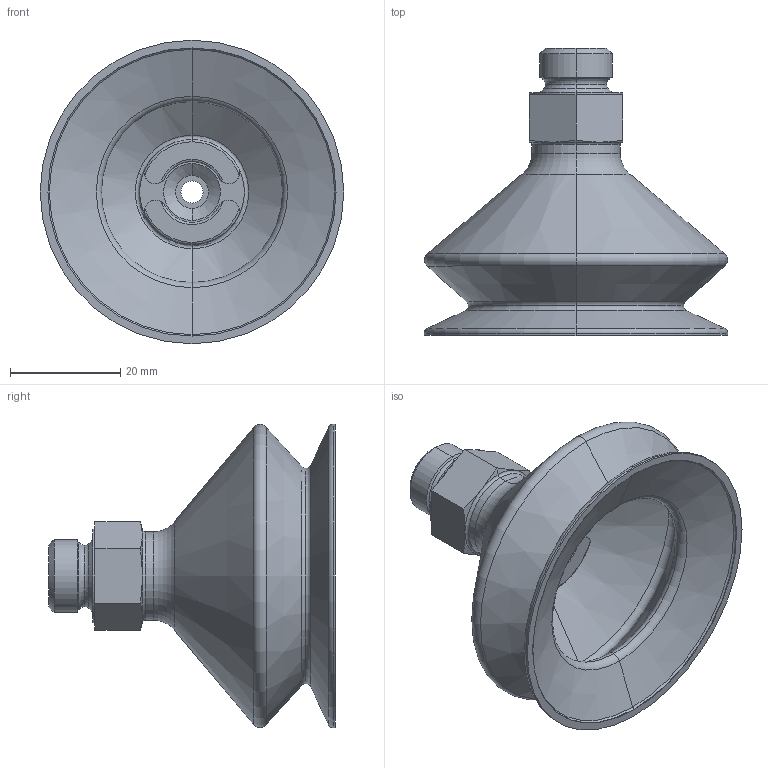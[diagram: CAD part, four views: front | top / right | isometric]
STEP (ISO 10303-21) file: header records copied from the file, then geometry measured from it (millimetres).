
FILE_DESCRIPTION (( 'STEP AP203' ), '1' );
FILE_NAME ('ZASB-55-1_4-SI.STEP', '2022-03-14T18:00:53', ( '' ), ( '' ), 'SwSTEP 2.0', 'SolidWorks 2019', '' );
FILE_SCHEMA (( 'CONFIG_CONTROL_DESIGN' ));
Length unit declared in the file: millimetre
Products named in the file (1): ZASB-55-1_4-SI
Bounding box: 55 x 52 x 55 mm (x, y, z)
Volume: 20617.1 mm3; surface area: 13470.2 mm2
Topology: 1 solids, 1 shells, 106 faces, 234 edges, 133 vertices
Faces by surface type: torus 32, cylinder 28, cone 27, plane 19
Entity records: 3056 total; most frequent: CARTESIAN_POINT 578, DIRECTION 573, ORIENTED_EDGE 468, AXIS2_PLACEMENT_3D 252, EDGE_CURVE 234, CIRCLE 145, VERTEX_POINT 133, EDGE_LOOP 111
